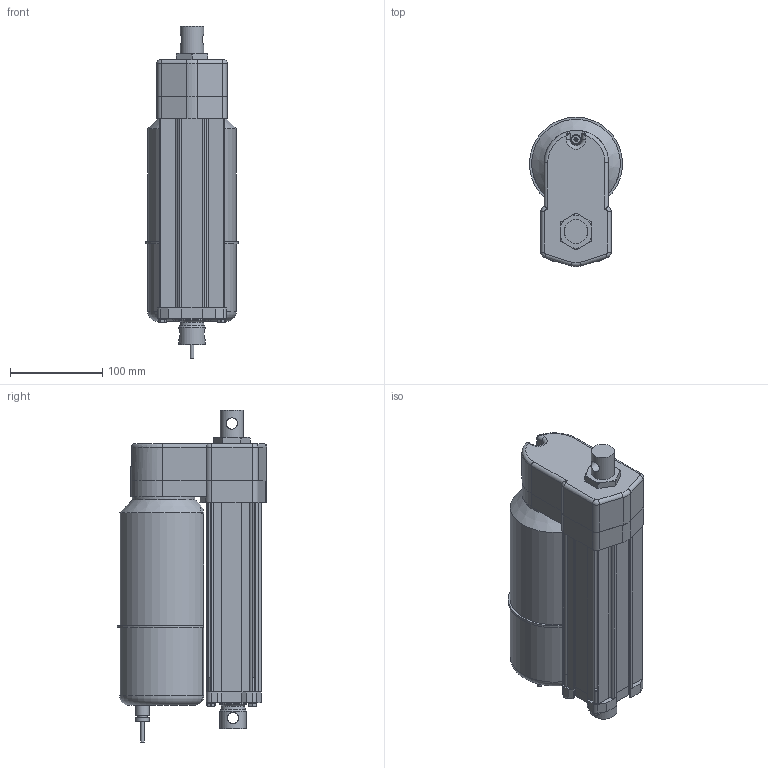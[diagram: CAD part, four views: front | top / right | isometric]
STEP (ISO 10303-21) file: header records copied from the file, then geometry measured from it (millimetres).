
FILE_DESCRIPTION (( 'STEP AP214' ), '1' );
FILE_NAME ('AA22-05B65M-10M0N-tollo.step', '2020-04-14T18:42:41', ( '' ), ( '' ), 'SwSTEP 2.0', 'SolidWorks 2010', '' );
FILE_SCHEMA (( 'AUTOMOTIVE_DESIGN' ));
Length unit declared in the file: millimetre
Products named in the file (8): Electrak-LA24-Motor-AA22-05B65M-10M0N-tollo_Electrak-LA24-Motor-AA22-05B65M-10M0N-tollo; Electrak-LA24-Rear-AA22-05B65M-10M0N-tollo_Electrak-LA24-Rear-AA22-05B65M-10M0N-tollo; Electrak-LA24-Tube-AA22-05B65M-10M0N-tollo_Electrak-LA24-Tube-AA22-05B65M-10M0N-tollo; Electrak-LA24-Rod-AA22-05B65M-10M0N-tollo_Electrak-LA24-Rod-AA22-05B65M-10M0N-tollo; Electrak-LA24-Plate-AA22-05B65M-10M0N-tollo_Electrak-LA24-Plate-AA22-05B65M-10M0N-tollo; Screw-MFX-H-M5_Screw-MFX-H-M5x24H; Screw-M6S-M5-AA22-05B65M-10M0N-tollo_Screw-M6S-M5-AA22-05B65M-10M0N-tollo; AA22-05B65M-10M0N-tollo
Assembly tree (10 placements, depth 2):
  AA22-05B65M-10M0N-tollo
    Electrak-LA24-Rod-AA22-05B65M-10M0N-tollo_Electrak-LA24-Rod-AA22-05B65M-10M0N-tollo
    Screw-M6S-M5-AA22-05B65M-10M0N-tollo_Screw-M6S-M5-AA22-05B65M-10M0N-tollo  x4
    Electrak-LA24-Motor-AA22-05B65M-10M0N-tollo_Electrak-LA24-Motor-AA22-05B65M-10M0N-tollo
    Screw-MFX-H-M5_Screw-MFX-H-M5x24H
    Electrak-LA24-Plate-AA22-05B65M-10M0N-tollo_Electrak-LA24-Plate-AA22-05B65M-10M0N-tollo
    Electrak-LA24-Tube-AA22-05B65M-10M0N-tollo_Electrak-LA24-Tube-AA22-05B65M-10M0N-tollo
    Electrak-LA24-Rear-AA22-05B65M-10M0N-tollo_Electrak-LA24-Rear-AA22-05B65M-10M0N-tollo
Bounding box: 100.99 x 162.5 x 360.3 mm (x, y, z)
Volume: 2512257.7 mm3; surface area: 288008.5 mm2
Topology: 10 solids, 10 shells, 353 faces, 886 edges, 572 vertices
Faces by surface type: plane 174, cylinder 128, cone 31, torus 15, bspline 3, sphere 2
Full cylindrical faces by diameter (mm): 4 x1, 4.126 x5, 4.8 x6, 5 x5, 5.6 x4, 7.878 x4, 9.3 x1, 10 x1, 12.2 x2, 15 x2, 25.4 x1, 28.6 x4, 47.625 x1, 68 x1
Entity records: 9633 total; most frequent: CARTESIAN_POINT 2397, DIRECTION 1446, ORIENTED_EDGE 1338, EDGE_CURVE 669, AXIS2_PLACEMENT_3D 527, VERTEX_POINT 460, LINE 392, VECTOR 392
